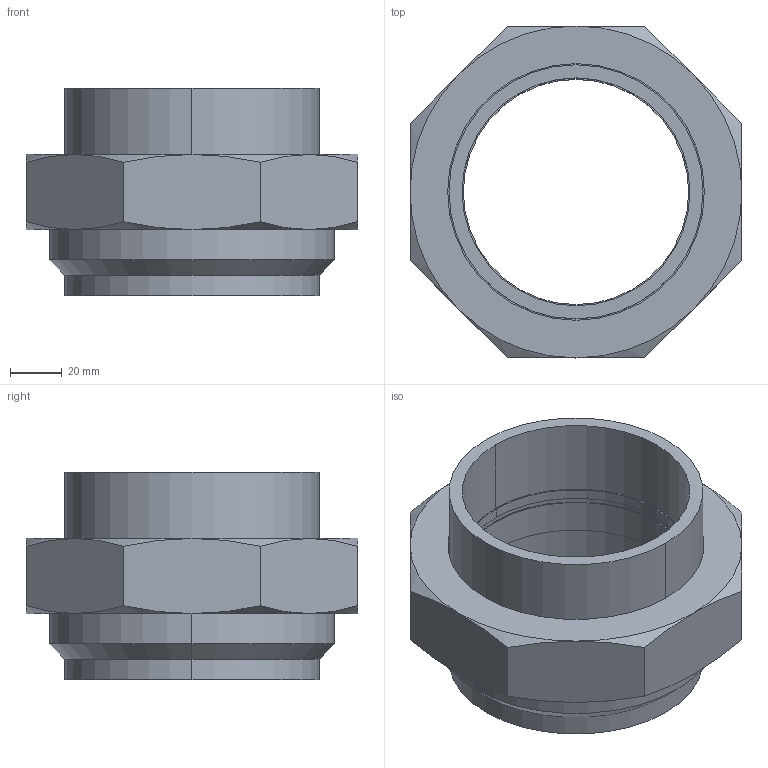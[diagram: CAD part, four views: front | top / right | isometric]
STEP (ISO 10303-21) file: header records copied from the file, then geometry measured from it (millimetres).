
FILE_DESCRIPTION (( 'STEP AP203' ), '1' );
FILE_NAME ('11-3131-11_outokumpu.step', '2015-08-07T11:23:01', ( '' ), ( '' ), 'SwSTEP 2.0', 'SolidWorks 2008', '' );
FILE_SCHEMA (( 'CONFIG_CONTROL_DESIGN' ));
Length unit declared in the file: millimetre
Products named in the file (5): case-13-555-156_outokumpu_case-13-555-156_outokumpu; nut-13-222-155_outokumpu_nut-13-222-155_outokumpu; 11-3131-11_outokumpu; nipple-13-444-022_outokumpu_nipple-13-444-022_outokumpu; seal-11-3131-11_outokumpu_seal-11-3131-11_outokumpu
Assembly tree (4 placements, depth 2):
  11-3131-11_outokumpu
    seal-11-3131-11_outokumpu_seal-11-3131-11_outokumpu
    nipple-13-444-022_outokumpu_nipple-13-444-022_outokumpu
    nut-13-222-155_outokumpu_nut-13-222-155_outokumpu
    case-13-555-156_outokumpu_case-13-555-156_outokumpu
Bounding box: 128 x 128 x 80 mm (x, y, z)
Volume: 320340.6 mm3; surface area: 100215.6 mm2
Topology: 4 solids, 4 shells, 64 faces, 134 edges, 82 vertices
Faces by surface type: cylinder 24, plane 20, cone 20
Entity records: 2407 total; most frequent: CARTESIAN_POINT 511, DIRECTION 310, ORIENTED_EDGE 268, AXIS2_PLACEMENT_3D 137, EDGE_CURVE 134, VERTEX_POINT 82, EDGE_LOOP 76, CIRCLE 66
